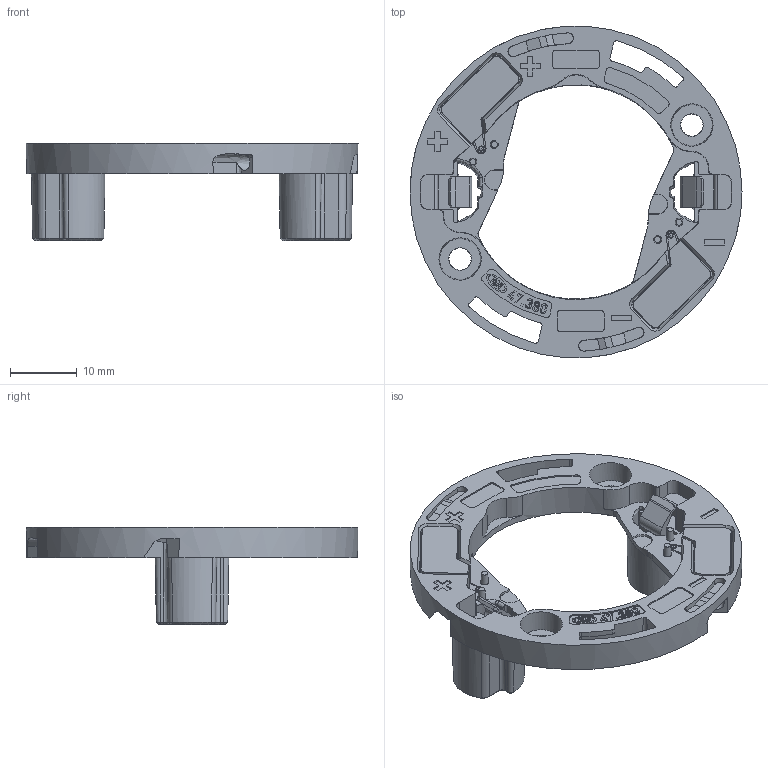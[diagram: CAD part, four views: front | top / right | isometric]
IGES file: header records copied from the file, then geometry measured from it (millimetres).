
Start section: C
Global section: file name: 025-703-03.igs; native system: By Siemens PLM Incorporated; preprocessor: XPlus GENERIC/IGES 23.0.61; author: Author; organization: Title; date: 20260217.133238; units: millimetre
Bounding box: 49.6 x 49.49 x 14.5 mm (x, y, z)
Volume: 5054.8 mm3; surface area: 5953.3 mm2
Topology: 1 solids, 5 shells, 750 faces, 2046 edges, 1320 vertices
Faces by surface type: bspline 750
